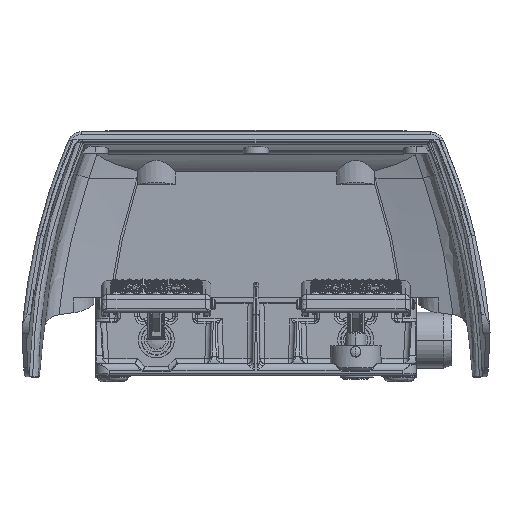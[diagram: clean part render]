
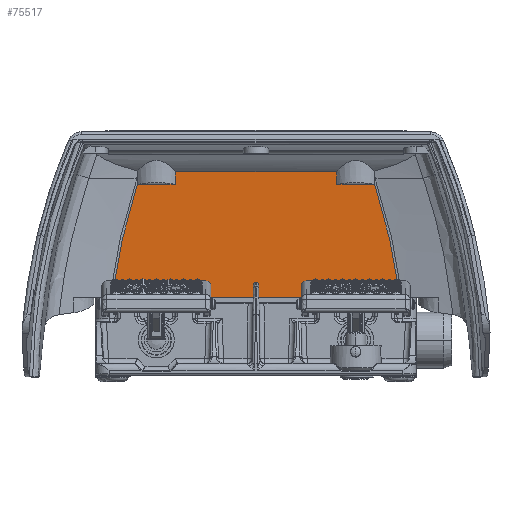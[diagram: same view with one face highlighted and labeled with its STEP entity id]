
A CAD part, top view. The second image highlights one B-rep face of the part: STEP entity #75517.
In plain terms, the highlighted planar face has unit normal (0, -0.035, 0.999).
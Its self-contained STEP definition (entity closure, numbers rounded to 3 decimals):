
#2052=DIRECTION('',(-1.,0.,0.));
#2053=VECTOR('',#2052,95.248);
#2054=CARTESIAN_POINT('',(47.624,120.545,-96.397));
#2055=LINE('',#2054,#2053);
#2289=DIRECTION('',(1.,0.,0.));
#2290=VECTOR('',#2289,22.973);
#2291=CARTESIAN_POINT('',(62.354,46.,-99.));
#2292=LINE('',#2291,#2290);
#2349=CARTESIAN_POINT('',(-85.327,46.,-99.));
#2350=CARTESIAN_POINT('',(-85.114,47.642,
-98.943));
#2351=CARTESIAN_POINT('',(-84.665,50.921,
-98.828));
#2352=CARTESIAN_POINT('',(-83.929,55.828,
-98.657));
#2353=CARTESIAN_POINT('',(-83.128,60.721,
-98.486));
#2354=CARTESIAN_POINT('',(-82.263,65.601,
-98.316));
#2355=CARTESIAN_POINT('',(-81.334,70.466,
-98.146));
#2356=CARTESIAN_POINT('',(-80.342,75.315,
-97.976));
#2357=CARTESIAN_POINT('',(-79.286,80.15,
-97.807));
#2358=CARTESIAN_POINT('',(-78.166,84.971,
-97.639));
#2359=CARTESIAN_POINT('',(-76.982,89.777,
-97.471));
#2360=CARTESIAN_POINT('',(-75.735,94.567,
-97.304));
#2361=CARTESIAN_POINT('',(-74.424,99.342,
-97.137));
#2362=CARTESIAN_POINT('',(-73.051,104.1,
-96.971));
#2363=CARTESIAN_POINT('',(-71.613,108.841,
-96.806));
#2364=CARTESIAN_POINT('',(-70.613,111.989,
-96.696));
#2365=CARTESIAN_POINT('',(-70.103,113.561,
-96.641));
#2370=CARTESIAN_POINT('',(-70.103,113.561,
-96.641));
#2371=CARTESIAN_POINT('',(-70.098,113.425,
-96.645));
#2372=CARTESIAN_POINT('',(-70.092,113.289,
-96.65));
#2373=CARTESIAN_POINT('',(-70.087,113.154,
-96.655));
#2378=DIRECTION('',(1.,0.,0.));
#2379=VECTOR('',#2378,22.174);
#2380=CARTESIAN_POINT('',(-70.087,113.154,
-96.655));
#2381=LINE('',#2380,#2379);
#2385=CARTESIAN_POINT('',(-47.913,113.154,
-96.655));
#2386=CARTESIAN_POINT('',(-47.881,113.969,
-96.626));
#2387=CARTESIAN_POINT('',(-47.817,115.604,
-96.569));
#2388=CARTESIAN_POINT('',(-47.721,118.068,
-96.483));
#2389=CARTESIAN_POINT('',(-47.656,119.718,
-96.426));
#2390=CARTESIAN_POINT('',(-47.624,120.545,
-96.397));
#2395=CARTESIAN_POINT('',(47.624,120.545,-96.397));
#2396=CARTESIAN_POINT('',(47.656,119.718,-96.426));
#2397=CARTESIAN_POINT('',(47.721,118.068,-96.483));
#2398=CARTESIAN_POINT('',(47.817,115.604,-96.569));
#2399=CARTESIAN_POINT('',(47.881,113.969,-96.626));
#2400=CARTESIAN_POINT('',(47.913,113.154,-96.655));
#2405=DIRECTION('',(1.,0.,0.));
#2406=VECTOR('',#2405,22.174);
#2407=CARTESIAN_POINT('',(47.913,113.154,-96.655));
#2408=LINE('',#2407,#2406);
#2412=CARTESIAN_POINT('',(70.087,113.154,-96.655));
#2413=CARTESIAN_POINT('',(70.092,113.289,-96.65));
#2414=CARTESIAN_POINT('',(70.098,113.425,-96.645));
#2415=CARTESIAN_POINT('',(70.103,113.561,-96.641));
#2420=CARTESIAN_POINT('',(70.103,113.561,-96.641));
#2421=CARTESIAN_POINT('',(70.613,111.989,-96.696));
#2422=CARTESIAN_POINT('',(71.613,108.841,-96.806));
#2423=CARTESIAN_POINT('',(73.051,104.099,-96.971));
#2424=CARTESIAN_POINT('',(74.424,99.342,-97.137));
#2425=CARTESIAN_POINT('',(75.735,94.567,-97.304));
#2426=CARTESIAN_POINT('',(76.982,89.777,-97.471));
#2427=CARTESIAN_POINT('',(78.166,84.971,-97.639));
#2428=CARTESIAN_POINT('',(79.286,80.15,-97.807));
#2429=CARTESIAN_POINT('',(80.342,75.315,-97.976));
#2430=CARTESIAN_POINT('',(81.334,70.465,-98.146));
#2431=CARTESIAN_POINT('',(82.263,65.601,-98.316));
#2432=CARTESIAN_POINT('',(83.128,60.721,-98.486));
#2433=CARTESIAN_POINT('',(83.929,55.828,-98.657));
#2434=CARTESIAN_POINT('',(84.665,50.921,-98.828));
#2435=CARTESIAN_POINT('',(85.114,47.642,-98.943));
#2436=CARTESIAN_POINT('',(85.327,46.,-99.));
#2441=DIRECTION('',(1.,0.,0.));
#2442=VECTOR('',#2441,3.354);
#2443=CARTESIAN_POINT('',(59.,46.,-99.));
#2444=LINE('',#2443,#2442);
#2448=DIRECTION('',(1.,0.,0.));
#2449=VECTOR('',#2448,3.354);
#2450=CARTESIAN_POINT('',(55.646,46.,-99.));
#2451=LINE('',#2450,#2449);
#2455=DIRECTION('',(1.,0.,0.));
#2456=VECTOR('',#2455,3.354);
#2457=CARTESIAN_POINT('',(-59.,46.,-99.));
#2458=LINE('',#2457,#2456);
#2462=DIRECTION('',(1.,0.,0.));
#2463=VECTOR('',#2462,3.354);
#2464=CARTESIAN_POINT('',(-62.354,46.,-99.));
#2465=LINE('',#2464,#2463);
#2469=DIRECTION('',(1.,0.,0.));
#2470=VECTOR('',#2469,22.973);
#2471=CARTESIAN_POINT('',(-85.327,46.,-99.));
#2472=LINE('',#2471,#2470);
#3293=DIRECTION('',(1.,0.,0.));
#3294=VECTOR('',#3293,111.292);
#3295=CARTESIAN_POINT('',(-55.646,46.,-99.));
#3296=LINE('',#3295,#3294);
#66297=CARTESIAN_POINT('',(-70.103,113.561,
-96.641));
#69003=CARTESIAN_POINT('',(70.103,113.561,
-96.641));
#72682=CARTESIAN_POINT('',(-70.087,113.154,
-96.655));
#72683=CARTESIAN_POINT('',(-47.913,113.154,
-96.655));
#72684=VERTEX_POINT('',#72682);
#72685=VERTEX_POINT('',#72683);
#72686=CARTESIAN_POINT('',(47.913,113.154,
-96.655));
#72687=CARTESIAN_POINT('',(70.087,113.154,
-96.655));
#72688=VERTEX_POINT('',#72686);
#72689=VERTEX_POINT('',#72687);
#72690=CARTESIAN_POINT('',(47.624,120.545,
-96.397));
#72691=CARTESIAN_POINT('',(-47.624,120.545,
-96.397));
#72692=VERTEX_POINT('',#72690);
#72693=VERTEX_POINT('',#72691);
#73243=CARTESIAN_POINT('',(-59.,46.,-99.));
#73245=VERTEX_POINT('',#73243);
#73249=CARTESIAN_POINT('',(59.,46.,-99.));
#73251=VERTEX_POINT('',#73249);
#73361=VERTEX_POINT('',#66297);
#73363=VERTEX_POINT('',#69003);
#73445=CARTESIAN_POINT('',(-85.327,46.,-99.));
#73446=CARTESIAN_POINT('',(-62.354,46.,-99.));
#73447=VERTEX_POINT('',#73445);
#73448=VERTEX_POINT('',#73446);
#73449=CARTESIAN_POINT('',(-55.646,46.,-99.));
#73450=CARTESIAN_POINT('',(55.646,46.,-99.));
#73451=VERTEX_POINT('',#73449);
#73452=VERTEX_POINT('',#73450);
#73453=CARTESIAN_POINT('',(62.354,46.,-99.));
#73454=CARTESIAN_POINT('',(85.327,46.,-99.));
#73455=VERTEX_POINT('',#73453);
#73456=VERTEX_POINT('',#73454);
#75480=CARTESIAN_POINT('',(168.,34.811,-99.391));
#75481=DIRECTION('',(0.,0.035,-0.999));
#75482=DIRECTION('',(0.,0.999,0.035));
#75483=AXIS2_PLACEMENT_3D('',#75480,#75481,#75482);
#75484=PLANE('',#75483);
#75486=ORIENTED_EDGE('',*,*,#75485,.F.);
#75488=ORIENTED_EDGE('',*,*,#75487,.T.);
#75490=ORIENTED_EDGE('',*,*,#75489,.T.);
#75492=ORIENTED_EDGE('',*,*,#75491,.T.);
#75494=ORIENTED_EDGE('',*,*,#75493,.T.);
#75495=ORIENTED_EDGE('',*,*,#75326,.F.);
#75497=ORIENTED_EDGE('',*,*,#75496,.T.);
#75499=ORIENTED_EDGE('',*,*,#75498,.T.);
#75501=ORIENTED_EDGE('',*,*,#75500,.T.);
#75503=ORIENTED_EDGE('',*,*,#75502,.T.);
#75504=ORIENTED_EDGE('',*,*,#75452,.F.);
#75506=ORIENTED_EDGE('',*,*,#75505,.F.);
#75508=ORIENTED_EDGE('',*,*,#75507,.F.);
#75510=ORIENTED_EDGE('',*,*,#75509,.F.);
#75512=ORIENTED_EDGE('',*,*,#75511,.F.);
#75514=ORIENTED_EDGE('',*,*,#75513,.F.);
#75515=EDGE_LOOP('',(#75486,#75488,#75490,#75492,#75494,#75495,#75497,#75499,
#75501,#75503,#75504,#75506,#75508,#75510,#75512,#75514));
#75516=FACE_OUTER_BOUND('',#75515,.F.);
#2366=B_SPLINE_CURVE_WITH_KNOTS('',3,(#2349,#2350,#2351,#2352,#2353,#2354,#2355,
#2356,#2357,#2358,#2359,#2360,#2361,#2362,#2363,#2364,#2365),.UNSPECIFIED.,.F.,
.F.,(4,1,1,1,1,1,1,1,1,1,1,1,1,1,4),(0.,0.071,0.143,
0.214,0.286,0.357,0.429,0.5,
0.571,0.643,0.714,0.786,
0.857,0.929,1.),.UNSPECIFIED.);
#2374=B_SPLINE_CURVE_WITH_KNOTS('',3,(#2370,#2371,#2372,#2373),.UNSPECIFIED.,
.F.,.F.,(4,4),(0.,1.),.UNSPECIFIED.);
#2391=B_SPLINE_CURVE_WITH_KNOTS('',3,(#2385,#2386,#2387,#2388,#2389,#2390),
.UNSPECIFIED.,.F.,.F.,(4,1,1,4),(0.,0.333,0.667,1.),
.UNSPECIFIED.);
#2401=B_SPLINE_CURVE_WITH_KNOTS('',3,(#2395,#2396,#2397,#2398,#2399,#2400),
.UNSPECIFIED.,.F.,.F.,(4,1,1,4),(0.,0.333,0.667,1.),
.UNSPECIFIED.);
#2416=B_SPLINE_CURVE_WITH_KNOTS('',3,(#2412,#2413,#2414,#2415),.UNSPECIFIED.,
.F.,.F.,(4,4),(0.,1.),.UNSPECIFIED.);
#2437=B_SPLINE_CURVE_WITH_KNOTS('',3,(#2420,#2421,#2422,#2423,#2424,#2425,#2426,
#2427,#2428,#2429,#2430,#2431,#2432,#2433,#2434,#2435,#2436),.UNSPECIFIED.,.F.,
.F.,(4,1,1,1,1,1,1,1,1,1,1,1,1,1,4),(0.,0.071,0.143,
0.214,0.286,0.357,0.429,0.5,
0.571,0.643,0.714,0.786,
0.857,0.929,1.),.UNSPECIFIED.);
#75326=EDGE_CURVE('',#72692,#72693,#2055,.T.);
#75452=EDGE_CURVE('',#73455,#73456,#2292,.T.);
#75485=EDGE_CURVE('',#73447,#73448,#2472,.T.);
#75487=EDGE_CURVE('',#73447,#73361,#2366,.T.);
#75489=EDGE_CURVE('',#73361,#72684,#2374,.T.);
#75491=EDGE_CURVE('',#72684,#72685,#2381,.T.);
#75493=EDGE_CURVE('',#72685,#72693,#2391,.T.);
#75496=EDGE_CURVE('',#72692,#72688,#2401,.T.);
#75498=EDGE_CURVE('',#72688,#72689,#2408,.T.);
#75500=EDGE_CURVE('',#72689,#73363,#2416,.T.);
#75502=EDGE_CURVE('',#73363,#73456,#2437,.T.);
#75505=EDGE_CURVE('',#73251,#73455,#2444,.T.);
#75507=EDGE_CURVE('',#73452,#73251,#2451,.T.);
#75509=EDGE_CURVE('',#73451,#73452,#3296,.T.);
#75511=EDGE_CURVE('',#73245,#73451,#2458,.T.);
#75513=EDGE_CURVE('',#73448,#73245,#2465,.T.);
#75517=ADVANCED_FACE('',(#75516),#75484,.F.);
